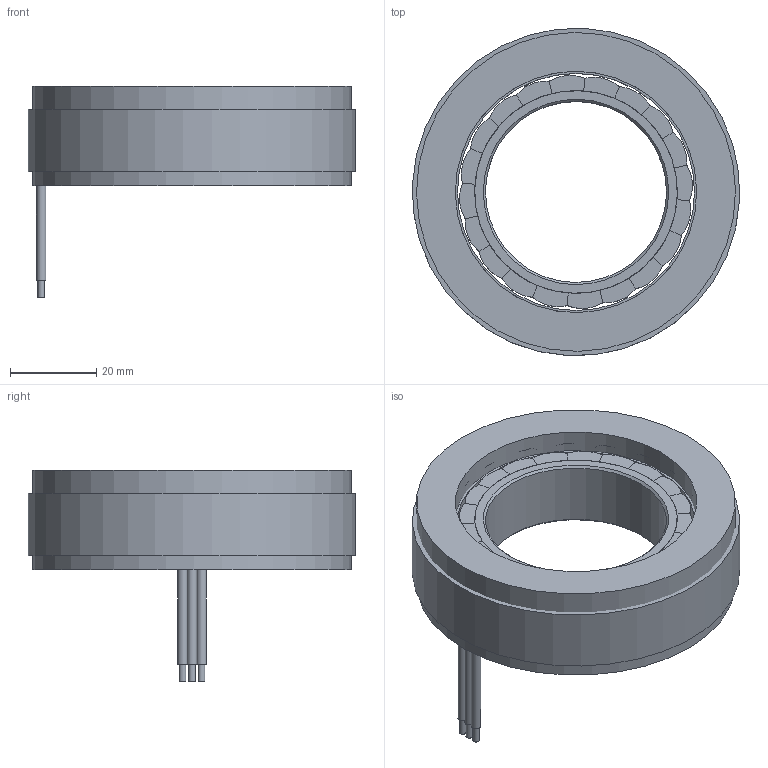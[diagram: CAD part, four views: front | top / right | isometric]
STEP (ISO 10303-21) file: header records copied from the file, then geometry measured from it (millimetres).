
FILE_DESCRIPTION (( 'STEP AP214' ), '1' );
FILE_NAME ('7613萇儂.STEP', '2024-01-17T03:45:52', ( '' ), ( '' ), 'SwSTEP 2.0', 'SolidWorks 2022', '' );
FILE_SCHEMA (( 'AUTOMOTIVE_DESIGN' ));
Length unit declared in the file: millimetre
Products named in the file (1): 7613萇儂
Bounding box: 75.89 x 75.89 x 49.1 mm (x, y, z)
Volume: 79961.8 mm3; surface area: 58791.8 mm2
Topology: 45 solids, 45 shells, 666 faces, 1711 edges, 1141 vertices
Faces by surface type: plane 370, cylinder 294, cone 2
Full cylindrical faces by diameter (mm): 1.55 x6, 2.2 x3, 42 x1, 47 x1, 55 x1, 56 x1, 72 x1, 74 x1, 76 x1
Entity records: 28100 total; most frequent: DIRECTION 3614, CARTESIAN_POINT 3495, ORIENTED_EDGE 3380, EDGE_CURVE 1690, AXIS2_PLACEMENT_3D 1257, VERTEX_POINT 1138, VECTOR 1100, LINE 1100
